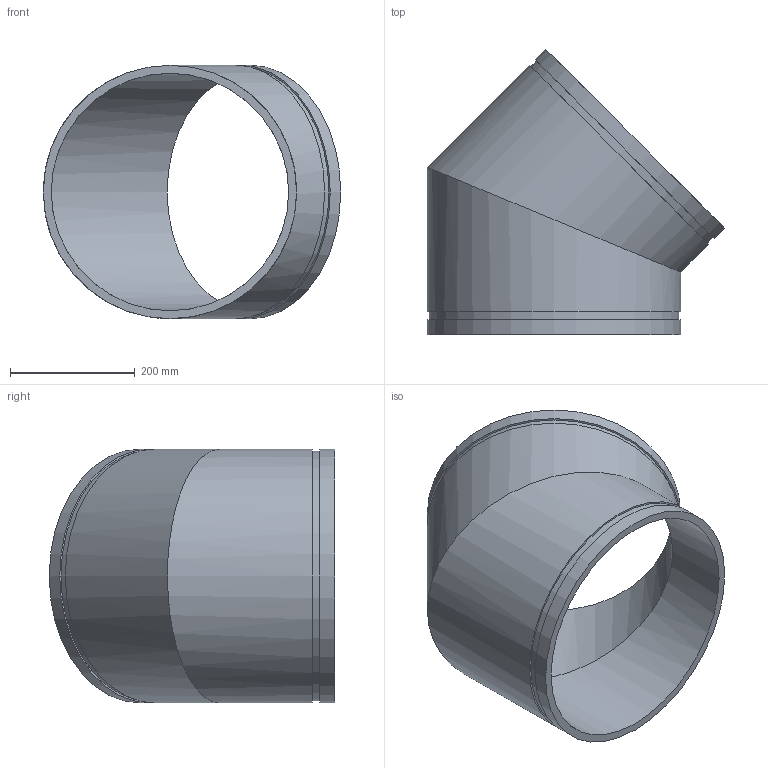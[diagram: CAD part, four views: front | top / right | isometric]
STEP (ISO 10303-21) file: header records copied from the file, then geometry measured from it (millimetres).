
FILE_DESCRIPTION(/* description */ ('VIC 45 DEG FABRICATED ELBOW No 11 SWS (OGS)','CAx-IF Rec.Pracs.---Representation and Presentation of Product Manufacturing Information (PMI)---4.0---2014-10-13'),/* implementation_level */ '2;1');
FILE_NAME(/* name */ 'C:\Users\kkamble\AppData\Roaming\Autodesk\ApplicationPlugins\Back Up\Victaulic_IPS_Elbow 45 Deg_No 11 SWS (OGS)\Victaulic_IPS_Elbow 45 Deg_No 11 SWS (OGS)_16 (400).stp',/* time_stamp */ '2020-09-16T22:15:08+06:00',/* author */ ('cgray'),/* organization */ ('Victaulic'),/* preprocessor_version */ 'ST-DEVELOPER v17.2',/* originating_system */ 'Autodesk Inventor 2019',/* authorisation */ '');
FILE_SCHEMA (('AP242_MANAGED_MODEL_BASED_3D_ENGINEERING_MIM_LF { 1 0 10303 442 1 1 4 }'));
Length unit declared in the file: inch
Products named in the file (1): 11 SWS-16.0
Bounding box: 477.1 x 458.05 x 406.4 mm (x, y, z)
Volume: 5695653.7 mm3; surface area: 956138.9 mm2
Topology: 1 solids, 1 shells, 14 faces, 30 edges, 22 vertices
Faces by surface type: cylinder 8, plane 6
Full cylindrical faces by diameter (mm): 381 x2, 400.837 x2, 406.4 x4
Entity records: 554 total; most frequent: DIRECTION 108, CARTESIAN_POINT 84, ORIENTED_EDGE 60, AXIS2_PLACEMENT_3D 50, EDGE_CURVE 30, VERTEX_POINT 22, EDGE_LOOP 20, CIRCLE 16
